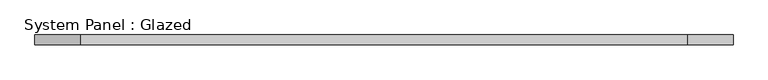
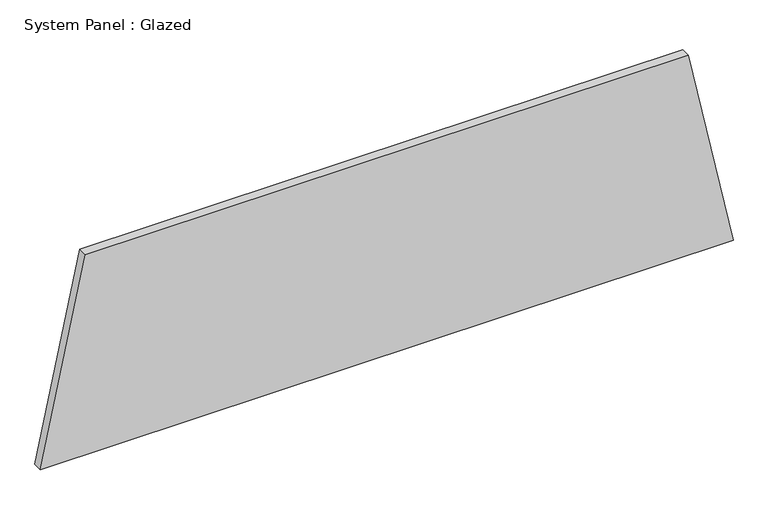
"""IFC4 building model written with IfcOpenShell, lengths in millimetres: plate geometry, System Panel : Glazed."""

import ifcopenshell
import ifcopenshell.guid

model = None  # the IFC model being written
_history = None  # IfcOwnerHistory: only IFC2X3 demands one
_inside = {}  # id of a spatial element -> (the spatial element, [elements in it])
_under = {}  # id of a project, library or spatial element -> (it, [spatial elements below it])
_declared = {}  # id of a project -> (the project, [libraries it declares])
_typed = {}  # id of a type object -> (the type object, [elements of that type])
_made_of = {}  # id of a material, layer set ... -> (it, [elements and type objects made of it])


def new_model(schema):
    """Start an empty IFC model of exactly this schema.

    Asked for "IFC4X3", IfcOpenShell would pick the latest addendum, in which some entities
    have other attributes; the version numbers below select the first issue.
    IFC2X3 requires an IfcOwnerHistory on every rooted entity: one is made here for all.
    """
    global model, _history
    if schema == "IFC4X3":
        model = ifcopenshell.file(schema_version=(4, 3, 0, 0))
    else:
        model = ifcopenshell.file(schema=schema)
    _inside.clear()
    _under.clear()
    _declared.clear()
    _typed.clear()
    _made_of.clear()
    _history = None
    if model.schema == "IFC2X3":
        org = make("IfcOrganization", Name="unknown")
        user = make(
            "IfcPersonAndOrganization",
            ThePerson=make("IfcPerson", FamilyName="unknown"),
            TheOrganization=org,
        )
        app = make(
            "IfcApplication",
            ApplicationDeveloper=org,
            Version="unknown",
            ApplicationFullName="unknown",
            ApplicationIdentifier="unknown",
        )
        _history = make(
            "IfcOwnerHistory",
            OwningUser=user,
            OwningApplication=app,
            ChangeAction="ADDED",
            CreationDate=0,
        )
    return model


def make(cls, **values):
    """One entity of the class cls with the attributes given. An attribute that is None is left unset."""
    return model.create_entity(
        cls, **{name: value for name, value in values.items() if value is not None}
    )


def rooted(cls, **values):
    """An entity with a GlobalId (a new one), such as an element, a storey or a relation."""
    return make(cls, GlobalId=ifcopenshell.guid.new(), OwnerHistory=_history, **values)


def si_unit(unit_type, name, prefix=None):
    """IfcSIUnit, for example si_unit("LENGTHUNIT", "METRE", prefix="MILLI")."""
    return make("IfcSIUnit", UnitType=unit_type, Prefix=prefix, Name=name)


def assignment(units):
    """IfcUnitAssignment: the units of a project."""
    return None if units is None else make("IfcUnitAssignment", Units=units)


def point(xyz):
    """IfcCartesianPoint."""
    return None if xyz is None else make("IfcCartesianPoint", Coordinates=xyz)


def direction(xyz):
    """IfcDirection."""
    return None if xyz is None else make("IfcDirection", DirectionRatios=xyz)


def frame(location, z_axis=None, x_axis=None):
    """IfcAxis2Placement3D, a coordinate frame: its origin and axes. An axis left out is left unset."""
    return make(
        "IfcAxis2Placement3D",
        Location=point(location),
        Axis=direction(z_axis),
        RefDirection=direction(x_axis),
    )


def origin():
    """The frame at (0, 0, 0) with its axes left unset."""
    return frame((0.0, 0.0, 0.0))


def place(relative_to, where):
    """IfcLocalPlacement: puts the frame where relative to a parent placement (None: the world)."""
    return make(
        "IfcLocalPlacement", PlacementRelTo=relative_to, RelativePlacement=where
    )


def context(
    kind, dimensions, precision=None, world=None, true_north=None, identifier=None
):
    """IfcGeometricRepresentationContext, for example the 3D "Model" context."""
    return make(
        "IfcGeometricRepresentationContext",
        ContextIdentifier=identifier,
        ContextType=kind,
        CoordinateSpaceDimension=dimensions,
        Precision=precision,
        WorldCoordinateSystem=world,
        TrueNorth=true_north,
    )


def project(units=None, contexts=None):
    """IfcProject with its units and contexts."""
    return rooted(
        "IfcProject",
        Name="project",
        RepresentationContexts=contexts,
        UnitsInContext=assignment(units),
    )


def spatial(cls, under=None, at=None, **own):
    """A site, building, storey or space (cls), placed at a placement, below another one or the project."""
    s = rooted(cls, ObjectPlacement=at, **own)
    if under is not None:
        _under.setdefault(under.id(), (under, []))[1].append(s)
    return s


def polyline(points):
    """IfcPolyline through the points."""
    return make("IfcPolyline", Points=[point(p) for p in points])


def outline(outer, holes=None, kind="AREA"):
    """IfcArbitraryClosedProfileDef: a profile drawn as a closed curve; with holes, ...WithVoids."""
    if holes is None:
        return make("IfcArbitraryClosedProfileDef", ProfileType=kind, OuterCurve=outer)
    return make(
        "IfcArbitraryProfileDefWithVoids",
        ProfileType=kind,
        OuterCurve=outer,
        InnerCurves=holes,
    )


def extrude(swept, where, along, depth):
    """IfcExtrudedAreaSolid: the profile swept, set in the frame where, extruded along a direction by depth."""
    return make(
        "IfcExtrudedAreaSolid",
        SweptArea=swept,
        Position=where,
        ExtrudedDirection=direction(along),
        Depth=depth,
    )


def shape(context_of_items, identifier, shape_type, items):
    """IfcShapeRepresentation: the items that make up one representation, for example the "Body"."""
    return make(
        "IfcShapeRepresentation",
        ContextOfItems=context_of_items,
        RepresentationIdentifier=identifier,
        RepresentationType=shape_type,
        Items=items,
    )


def source(mapping_origin, context_of_items, identifier, shape_type, items):
    """IfcRepresentationMap: a shape defined once, which mapped items show again and again."""
    return make(
        "IfcRepresentationMap",
        MappingOrigin=mapping_origin,
        MappedRepresentation=shape(context_of_items, identifier, shape_type, items),
    )


def transform(
    local_origin,
    x_axis=None,
    y_axis=None,
    z_axis=None,
    scale=None,
    scale2=None,
    scale3=None,
    uniform=True,
):
    """IfcCartesianTransformationOperator3D, or its non-uniform kind. x_axis, y_axis, z_axis: its Axis1, 2, 3."""
    if uniform:
        return make(
            "IfcCartesianTransformationOperator3D",
            Axis1=direction(x_axis),
            Axis2=direction(y_axis),
            LocalOrigin=point(local_origin),
            Scale=scale,
            Axis3=direction(z_axis),
        )
    return make(
        "IfcCartesianTransformationOperator3DnonUniform",
        Axis1=direction(x_axis),
        Axis2=direction(y_axis),
        LocalOrigin=point(local_origin),
        Scale=scale,
        Axis3=direction(z_axis),
        Scale2=scale2,
        Scale3=scale3,
    )


def mapped(mapping_source, mapping_target):
    """IfcMappedItem: shows the shape of a source again, moved by a transform."""
    return make(
        "IfcMappedItem", MappingSource=mapping_source, MappingTarget=mapping_target
    )


def made_of(thing, what):
    """Note that an element or type object is made of a material, layer set ...; save() writes the relation."""
    if what is not None:
        _made_of.setdefault(what.id(), (what, []))[1].append(thing)
    return thing


def element(
    cls,
    number,
    at=None,
    inside=None,
    cuts=None,
    type_object=None,
    material=None,
    context=None,
    identifier="Body",
    shape_type=None,
    held_by="IfcProductDefinitionShape",
    body=None,
    shapes=None,
    **own,
):
    """One element of the class cls, such as IfcWall. Its Tag is "e" and its number.

    at: its placement. inside: the storey or other place that contains it. cuts: it is an
    opening in that element (IfcRelVoidsElement). A single representation is given by context,
    identifier, shape_type and body (its items); several are given by shapes. held_by: the class
    of the entity that holds the representations. save() writes the other relations.
    """
    e = rooted(cls, Tag="e%d" % number, ObjectPlacement=at, **own)
    if body is not None:
        shapes = [shape(context, identifier, shape_type, body)]
    if shapes is not None:
        e.Representation = make(held_by, Representations=shapes)
    if inside is not None:
        _inside.setdefault(inside.id(), (inside, []))[1].append(e)
    if cuts is not None:
        rooted(
            "IfcRelVoidsElement", RelatingBuildingElement=cuts, RelatedOpeningElement=e
        )
    if type_object is not None:
        _typed.setdefault(type_object.id(), (type_object, []))[1].append(e)
    return made_of(e, material)


def aggregate(whole, parts):
    """IfcRelAggregates: a whole, such as a stair, and the parts it consists of."""
    return rooted("IfcRelAggregates", RelatingObject=whole, RelatedObjects=parts)


def save(model, path):
    """Write the relations noted so far, then the file.

    IfcRelAggregates (storeys below a building ...), IfcRelContainedInSpatialStructure (elements
    in a storey), IfcRelDefinesByType, IfcRelAssociatesMaterial and IfcRelDeclares: one each for
    every whole, place, type object, material and project.
    """
    for whole, parts in _under.values():
        aggregate(whole, parts)
    for where, things in _inside.values():
        rooted(
            "IfcRelContainedInSpatialStructure",
            RelatedElements=things,
            RelatingStructure=where,
        )
    for kind, things in _typed.values():
        rooted("IfcRelDefinesByType", RelatedObjects=things, RelatingType=kind)
    for what, things in _made_of.values():
        rooted("IfcRelAssociatesMaterial", RelatedObjects=things, RelatingMaterial=what)
    for by, libraries in _declared.values():
        rooted("IfcRelDeclares", RelatingContext=by, RelatedDefinitions=libraries)
    model.write(path)


def system_panel_glazed_b0e446d2(model_context):
    return source(origin(), model_context, "Body", "SweptSolid", [
        extrude(outline(polyline([(0.0, -914.7167133), (0.0, 914.7167133), (558.1731024, 796.0472384), (558.1731024, -796.0472384), (0.0, -914.7167133)])), frame((0.0, 19.05, 0.0), z_axis=(0.0, 1.0, 0.0), x_axis=(0.0, 0.0, 1.0)), (0.0, 0.0, 1.0), 25.4),
    ])


if __name__ == "__main__":
    model = new_model("IFC4")
    model_context = context("Model", 3, world=origin())
    ifc_project = project(units=[si_unit("LENGTHUNIT", "METRE", prefix="MILLI")], contexts=[model_context])
    site = spatial("IfcSite", under=ifc_project)
    building = spatial("IfcBuilding", under=site)
    placement = place(None, origin())
    system_panel_glazed_shape = system_panel_glazed_b0e446d2(model_context)
    element("IfcPlate", 1, ObjectType="System Panel : Glazed", at=placement, inside=building, context=model_context, shape_type="MappedRepresentation", body=[
        mapped(system_panel_glazed_shape, transform((0.0, 0.0, 0.0), x_axis=(1.0, 0.0, 0.0), y_axis=(0.0, 1.0, 0.0), z_axis=(0.0, 0.0, 1.0))),
    ])
    save(model, "model.ifc")
